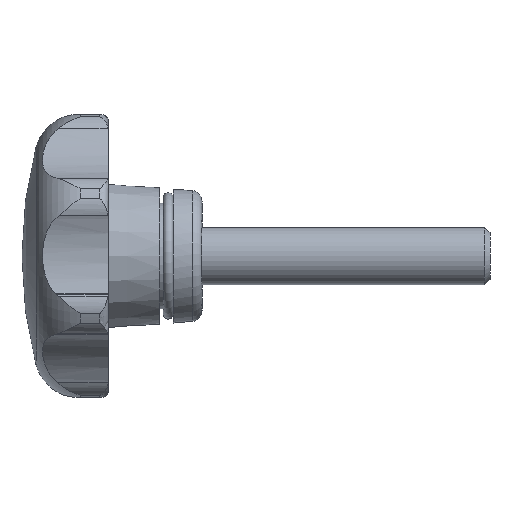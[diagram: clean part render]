
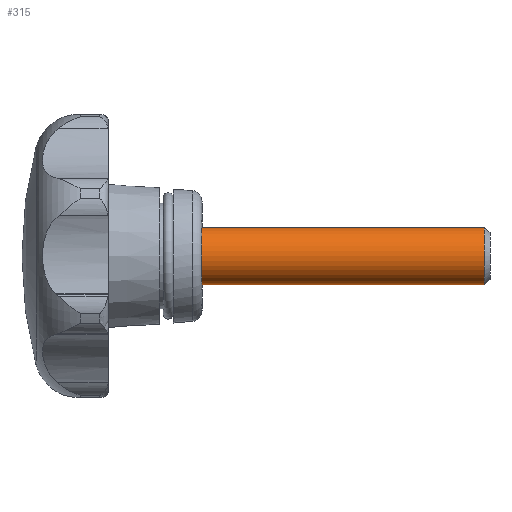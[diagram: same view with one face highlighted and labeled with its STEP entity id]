
A CAD part, left-side view. The second image highlights one B-rep face of the part: STEP entity #315.
In plain terms, the highlighted cylindrical face has radius 4 mm (diameter 8 mm), a full revolution.
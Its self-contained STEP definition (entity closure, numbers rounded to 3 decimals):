
#315 = ADVANCED_FACE( '', ( #688, #689 ), #690, .T. );
#688 = FACE_OUTER_BOUND( '', #1112, .T. );
#689 = FACE_OUTER_BOUND( '', #1113, .T. );
#690 = CYLINDRICAL_SURFACE( '', #1114, 4. );
#1112 = EDGE_LOOP( '', ( #2391 ) );
#1113 = EDGE_LOOP( '', ( #2392 ) );
#1114 = AXIS2_PLACEMENT_3D( '', #2393, #2394, #2395 );
#2391 = ORIENTED_EDGE( '', *, *, #3065, .F. );
#2392 = ORIENTED_EDGE( '', *, *, #2968, .T. );
#2393 = CARTESIAN_POINT( '', ( 0., -40., 0. ) );
#2394 = DIRECTION( '', ( 0., 1., 0. ) );
#2395 = DIRECTION( '', ( 0., 0., -1. ) );
#2968 = EDGE_CURVE( '', #3671, #3671, #3672, .T. );
#3065 = EDGE_CURVE( '', #3790, #3790, #3791, .T. );
#3671 = VERTEX_POINT( '', #5474 );
#3672 = CIRCLE( '', #5475, 4. );
#3790 = VERTEX_POINT( '', #5667 );
#3791 = CIRCLE( '', #5668, 4. );
#5474 = CARTESIAN_POINT( '', ( 0., 0., -4. ) );
#5475 = AXIS2_PLACEMENT_3D( '', #6260, #6261, #6262 );
#5667 = CARTESIAN_POINT( '', ( 0., -39.233, -4. ) );
#5668 = AXIS2_PLACEMENT_3D( '', #6464, #6465, #6466 );
#6260 = CARTESIAN_POINT( '', ( 0., 0., 0. ) );
#6261 = DIRECTION( '', ( 0., -1., 0. ) );
#6262 = DIRECTION( '', ( 0., 0., -1. ) );
#6464 = CARTESIAN_POINT( '', ( 0., -39.233, 0. ) );
#6465 = DIRECTION( '', ( 0., -1., 0. ) );
#6466 = DIRECTION( '', ( 0., 0., -1. ) );
